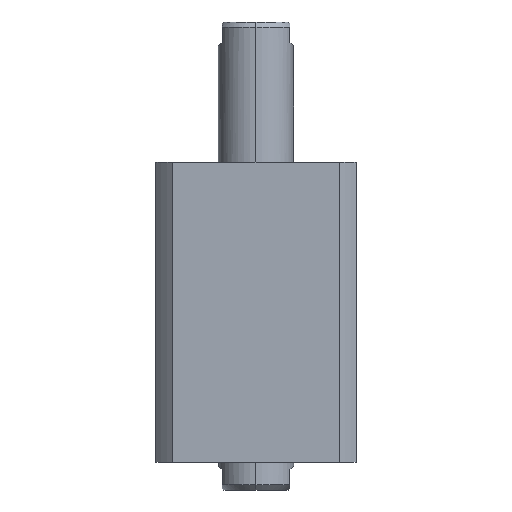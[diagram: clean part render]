
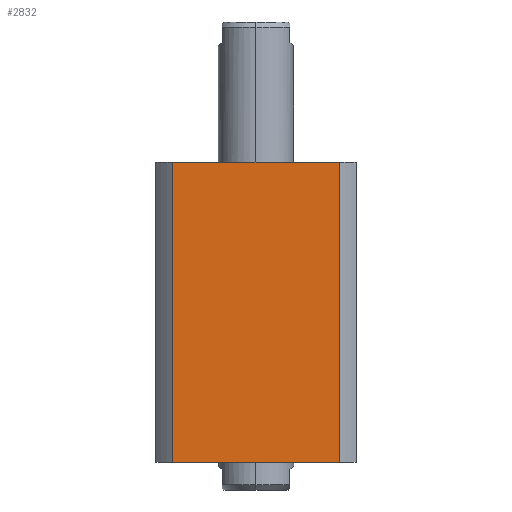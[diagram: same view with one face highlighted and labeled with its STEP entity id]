
A CAD part, left-side view. The second image highlights one B-rep face of the part: STEP entity #2832.
In plain terms, the highlighted planar face has unit normal (-1, 0, 0).
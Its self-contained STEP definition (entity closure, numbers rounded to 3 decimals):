
#81 = PLANE ( 'NONE',  #278 ) ;
#278 = AXIS2_PLACEMENT_3D ( 'NONE', #2267, #7371, #2869 ) ;
#543 = CARTESIAN_POINT ( 'NONE',  ( -40., 33.226, 60. ) ) ;
#567 = CARTESIAN_POINT ( 'NONE',  ( -40., 33.226, -60. ) ) ;
#769 = CARTESIAN_POINT ( 'NONE',  ( -40., -33.226, -60. ) ) ;
#899 = CARTESIAN_POINT ( 'NONE',  ( -40., -33.226, 60. ) ) ;
#1283 = DIRECTION ( 'NONE',  ( 0., -1., 0. ) ) ;
#1309 = VECTOR ( 'NONE', #2872, 1000. ) ;
#1648 = VECTOR ( 'NONE', #2056, 1000. ) ;
#1667 = LINE ( 'NONE', #543, #7676 ) ;
#2056 = DIRECTION ( 'NONE',  ( 0., -1., 0. ) ) ;
#2267 = CARTESIAN_POINT ( 'NONE',  ( -40., 33.226, 60. ) ) ;
#2299 = CARTESIAN_POINT ( 'NONE',  ( -40., 33.226, -60. ) ) ;
#2579 = VERTEX_POINT ( 'NONE', #769 ) ;
#2593 = LINE ( 'NONE', #567, #1648 ) ;
#2832 = ADVANCED_FACE ( 'NONE', ( #7984 ), #81, .F. ) ;
#2869 = DIRECTION ( 'NONE',  ( 0., 1., 0. ) ) ;
#2872 = DIRECTION ( 'NONE',  ( 0., 0., -1. ) ) ;
#3086 = EDGE_CURVE ( 'NONE', #3356, #2579, #3969, .T. ) ;
#3204 = CARTESIAN_POINT ( 'NONE',  ( -40., 33.226, 60. ) ) ;
#3356 = VERTEX_POINT ( 'NONE', #6388 ) ;
#3382 = ORIENTED_EDGE ( 'NONE', *, *, #9783, .T. ) ;
#3969 = LINE ( 'NONE', #899, #5851 ) ;
#4218 = ORIENTED_EDGE ( 'NONE', *, *, #3086, .F. ) ;
#4258 = EDGE_CURVE ( 'NONE', #7996, #3356, #1667, .T. ) ;
#4657 = ORIENTED_EDGE ( 'NONE', *, *, #4258, .F. ) ;
#4835 = LINE ( 'NONE', #5769, #1309 ) ;
#4948 = EDGE_CURVE ( 'NONE', #8836, #2579, #2593, .T. ) ;
#5769 = CARTESIAN_POINT ( 'NONE',  ( -40., 33.226, 60. ) ) ;
#5851 = VECTOR ( 'NONE', #7792, 1000. ) ;
#6328 = EDGE_LOOP ( 'NONE', ( #8333, #4218, #4657, #3382 ) ) ;
#6388 = CARTESIAN_POINT ( 'NONE',  ( -40., -33.226, 60. ) ) ;
#7371 = DIRECTION ( 'NONE',  ( 1., 0., 0. ) ) ;
#7676 = VECTOR ( 'NONE', #1283, 1000. ) ;
#7792 = DIRECTION ( 'NONE',  ( 0., 0., -1. ) ) ;
#7984 = FACE_OUTER_BOUND ( 'NONE', #6328, .T. ) ;
#7996 = VERTEX_POINT ( 'NONE', #3204 ) ;
#8333 = ORIENTED_EDGE ( 'NONE', *, *, #4948, .T. ) ;
#8836 = VERTEX_POINT ( 'NONE', #2299 ) ;
#9783 = EDGE_CURVE ( 'NONE', #7996, #8836, #4835, .T. ) ;
